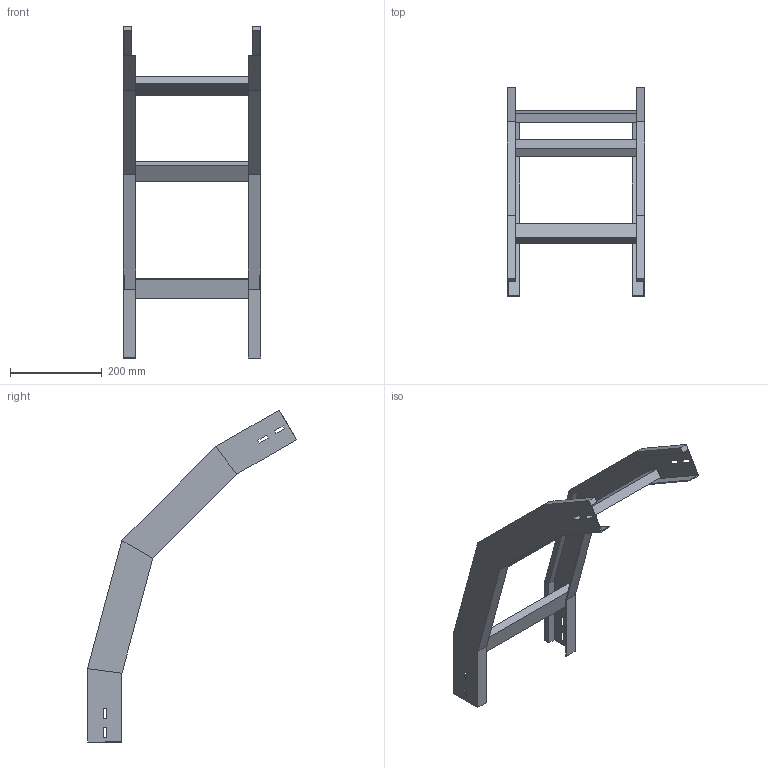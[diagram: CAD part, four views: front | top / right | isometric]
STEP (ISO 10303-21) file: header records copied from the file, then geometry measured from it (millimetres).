
FILE_DESCRIPTION (( 'STEP AP214' ), '1' );
FILE_NAME ('41B5C300.step', '2025-02-21T14:59:23', ( '' ), ( '' ), 'SwSTEP 2.0', 'SolidWorks 2023', '' );
FILE_SCHEMA (( 'AUTOMOTIVE_DESIGN' ));
Length unit declared in the file: millimetre
Products named in the file (3): 41B5C300; LONGH.DISCESA_60°_H75_R500; TRAVERSINO_300
Assembly tree (5 placements, depth 2):
  41B5C300
    LONGH.DISCESA_60°_H75_R500  x2
    TRAVERSINO_300  x3
Bounding box: 300 x 455.08 x 723.27 mm (x, y, z)
Volume: 1398339.7 mm3; surface area: 515506.3 mm2
Topology: 5 solids, 5 shells, 118 faces, 276 edges, 168 vertices
Faces by surface type: plane 118
Entity records: 1672 total; most frequent: CARTESIAN_POINT 276, ORIENTED_EDGE 264, DIRECTION 260, EDGE_CURVE 132, VECTOR 132, LINE 132, VERTEX_POINT 80, EDGE_LOOP 64
